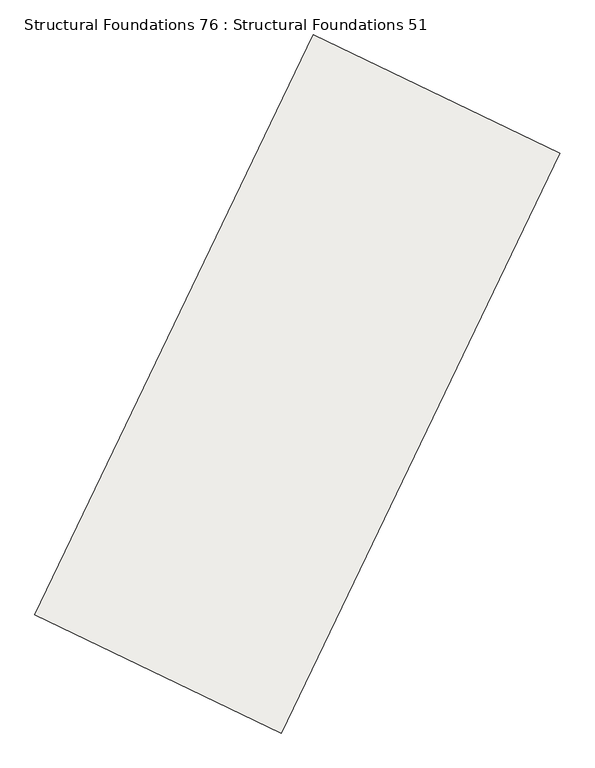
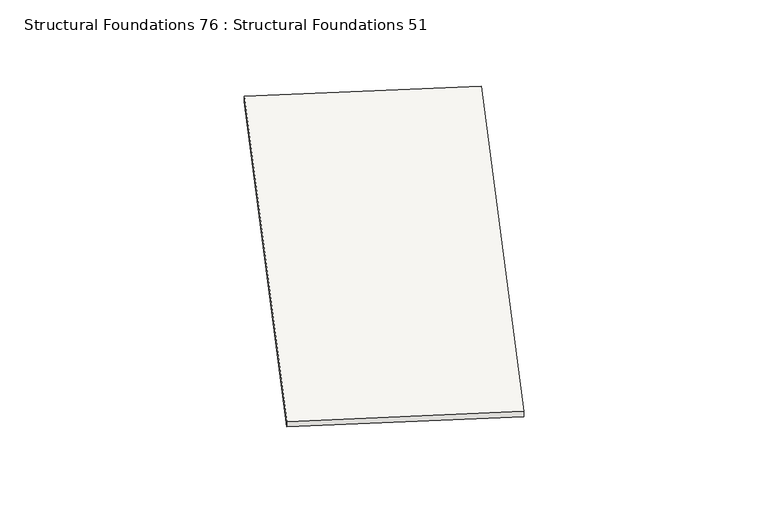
"""IFC4 building model written with IfcOpenShell, lengths in millimetres: slab geometry, Structural Foundations 76 : Structural Foundations 51."""

from ifc_helpers import new_model, si_unit, origin, place, context, project, spatial, faceted_brep, source, transform, mapped, element, save


def structural_foundations_76_structural_foundations_51_eb7dacbf(model_context):
    return source(origin(), model_context, "Body", "Brep", [
        faceted_brep([(430944.6200045, 375661.8023122, 646322.4193331), (427609.4179715, 377263.789919, 646322.4193331), (427609.4179715, 377263.789919, 646222.4193331), (430944.6200045, 375661.8023122, 646222.4193331), (434711.4227676, 383504.0721957, 646432.7338173), (434711.4227676, 383504.0721957, 646332.7338173), (431376.2130477, 385106.0634947, 646332.7338173), (431376.2130477, 385106.0634947, 646432.7338173)], [[[0, 1, 2, 3]], [[4, 5, 6, 7]], [[4, 7, 1, 0]], [[7, 6, 2, 1]], [[6, 5, 3, 2]], [[5, 4, 0, 3]]]),
    ])


if __name__ == "__main__":
    model = new_model("IFC4")
    model_context = context("Model", 3, world=origin())
    ifc_project = project(units=[si_unit("LENGTHUNIT", "METRE", prefix="MILLI")], contexts=[model_context])
    site = spatial("IfcSite", under=ifc_project)
    building = spatial("IfcBuilding", under=site)
    placement = place(None, origin())
    structural_foundations_76_structural_foundations_51_shape = structural_foundations_76_structural_foundations_51_eb7dacbf(model_context)
    element("IfcSlab", 1, ObjectType="Structural Foundations 76 : Structural Foundations 51", at=placement, inside=building, context=model_context, shape_type="MappedRepresentation", body=[
        mapped(structural_foundations_76_structural_foundations_51_shape, transform((0.0, 0.0, 0.0), x_axis=(1.0, 0.0, 0.0), y_axis=(0.0, 1.0, 0.0), z_axis=(0.0, 0.0, 1.0))),
    ])
    save(model, "model.ifc")
